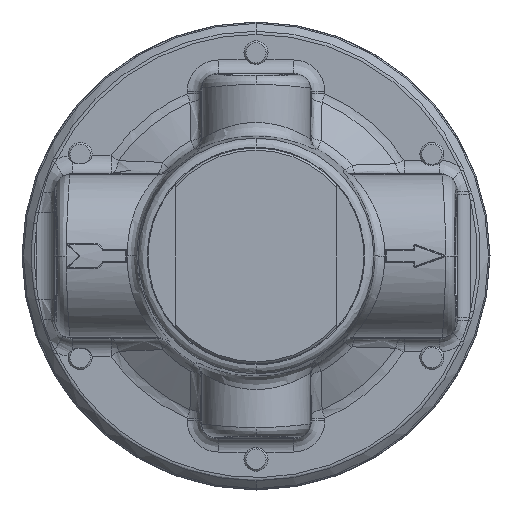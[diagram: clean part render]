
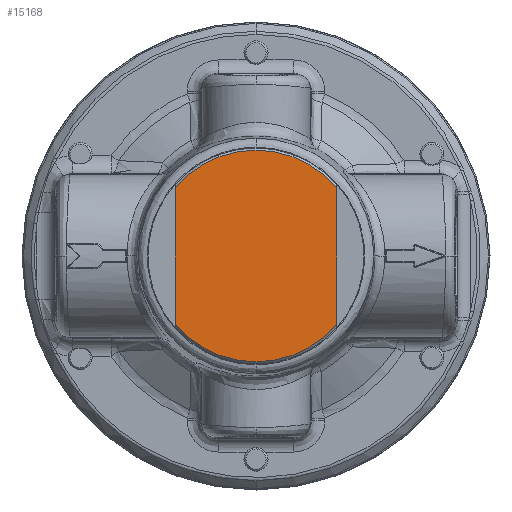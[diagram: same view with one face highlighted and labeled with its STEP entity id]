
A CAD part, front view. The second image highlights one B-rep face of the part: STEP entity #15168.
In plain terms, the highlighted planar face has unit normal (0, -1, 0).
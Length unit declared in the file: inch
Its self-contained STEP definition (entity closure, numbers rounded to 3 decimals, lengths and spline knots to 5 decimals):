
#6426 = LINE ( 'NONE', #6427, #36341 ) ;
#6427 = CARTESIAN_POINT ( 'NONE',  ( -0.55875, -1.906, -0.7475 ) ) ;
#6431 = CARTESIAN_POINT ( 'NONE',  ( 0.55875, -1.906, -0.7475 ) ) ;
#6432 = CARTESIAN_POINT ( 'NONE',  ( 0., -1.906, 0. ) ) ;
#6433 = DIRECTION ( 'NONE',  ( 0., 1., 0. ) ) ;
#6434 = DIRECTION ( 'NONE',  ( -1., 0., 0. ) ) ;
#6435 = LINE ( 'NONE', #6431, #36347 ) ;
#6436 = DIRECTION ( 'NONE',  ( 0., 0., -1. ) ) ;
#6437 = CARTESIAN_POINT ( 'NONE',  ( 0., -1.906, 0. ) ) ;
#6438 = DIRECTION ( 'NONE',  ( 0., 1., 0. ) ) ;
#6439 = DIRECTION ( 'NONE',  ( -1., 0., 0. ) ) ;
#6440 = DIRECTION ( 'NONE',  ( 0., 0., -1. ) ) ;
#15168 = ADVANCED_FACE ( 'NONE', ( #20980 ), #20982, .T. ) ;
#16969 = ORIENTED_EDGE ( 'NONE', *, *, #43002, .F. ) ;
#16970 = ORIENTED_EDGE ( 'NONE', *, *, #43003, .T. ) ;
#16971 = ORIENTED_EDGE ( 'NONE', *, *, #43005, .F. ) ;
#16972 = ORIENTED_EDGE ( 'NONE', *, *, #43008, .F. ) ;
#20975 = CARTESIAN_POINT ( 'NONE',  ( 0., -1.906, 0. ) ) ;
#20980 = FACE_OUTER_BOUND ( 'NONE', #29993, .T. ) ;
#20982 = PLANE ( 'NONE',  #36001 ) ;
#20986 = DIRECTION ( 'NONE',  ( 0., -1., 0. ) ) ;
#20988 = DIRECTION ( 'NONE',  ( 1., 0., 0. ) ) ;
#29993 = EDGE_LOOP ( 'NONE', ( #16972, #16971, #16970, #16969 ) ) ;
#30926 = VERTEX_POINT ( 'NONE', #41818 ) ;
#31009 = VERTEX_POINT ( 'NONE', #41853 ) ;
#31151 = VERTEX_POINT ( 'NONE', #41925 ) ;
#31176 = VERTEX_POINT ( 'NONE', #41936 ) ;
#36001 = AXIS2_PLACEMENT_3D ( 'NONE', #20975, #20986, #20988 ) ;
#36318 = CIRCLE ( 'NONE', #36348, 0.7325 ) ;
#36337 = CIRCLE ( 'NONE', #36343, 0.7325 ) ;
#36341 = VECTOR ( 'NONE', #6436, 39.37008 ) ;
#36343 = AXIS2_PLACEMENT_3D ( 'NONE', #6432, #6433, #6434 ) ;
#36347 = VECTOR ( 'NONE', #6440, 39.37008 ) ;
#36348 = AXIS2_PLACEMENT_3D ( 'NONE', #6437, #6438, #6439 ) ;
#41818 = CARTESIAN_POINT ( 'NONE',  ( 0.55875, -1.906, -0.47366 ) ) ;
#41853 = CARTESIAN_POINT ( 'NONE',  ( -0.55875, -1.906, -0.47366 ) ) ;
#41925 = CARTESIAN_POINT ( 'NONE',  ( 0.55875, -1.906, 0.47366 ) ) ;
#41936 = CARTESIAN_POINT ( 'NONE',  ( -0.55875, -1.906, 0.47366 ) ) ;
#43002 = EDGE_CURVE ( 'NONE', #30926, #31009, #36337, .T. ) ;
#43003 = EDGE_CURVE ( 'NONE', #31176, #31009, #6426, .T. ) ;
#43005 = EDGE_CURVE ( 'NONE', #31176, #31151, #36318, .T. ) ;
#43008 = EDGE_CURVE ( 'NONE', #31151, #30926, #6435, .T. ) ;
